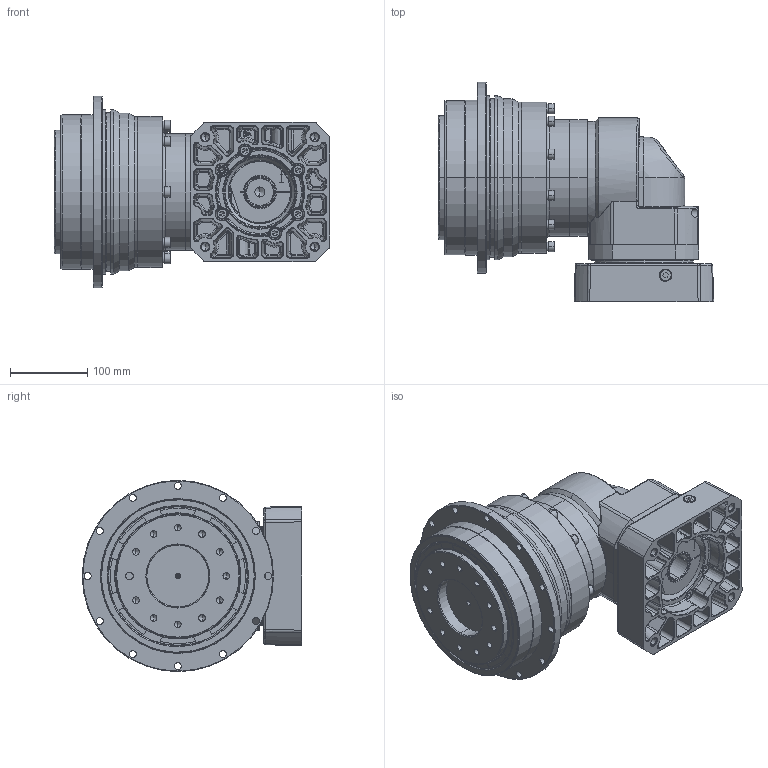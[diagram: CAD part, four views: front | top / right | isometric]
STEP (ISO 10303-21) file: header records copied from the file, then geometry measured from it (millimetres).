
FILE_DESCRIPTION (( 'STEP AP214' ), '1' );
FILE_NAME ('EVT200-L2-P1 35-114.3-200-M12-82.STEP', '2025-02-19T06:11:22', ( '微软用户' ), ( '微软中国' ), 'SwSTEP 2.0', 'SolidWorks 2021', '' );
FILE_SCHEMA (( 'AUTOMOTIVE_DESIGN' ));
Length unit declared in the file: millimetre
Products named in the file (14): 怀堤傷褲极EVT140D; 输入轴PAR142D-35; 20-FADR140F眻褒眊极_stp.stp; 输入端壳体PAR142D_1; 怀堤俴陎殤VRT200D; 输出内齿圈壳体VRT200; 一级内齿圈壳体VRT140; M6-14樓粟菜; 输入轴锁紧环41X79X18(加螺丝); EVT200-L2-P1 35-114.3-200-M12-82; 蚐猾160X180X3; 镂空输入法兰PAB142D-114.3-53-M12; M8-16樓粟菜; 踡隅蹟隊M16x12_1
Assembly tree (42 placements, depth 2):
  EVT200-L2-P1 35-114.3-200-M12-82
    怀堤俴陎殤VRT200D
    蚐猾160X180X3
    输出内齿圈壳体VRT200
    一级内齿圈壳体VRT140
    M8-16樓粟菜  x22
    踡隅蹟隊M16x12_1
    输入轴PAR142D-35
    输入轴锁紧环41X79X18(加螺丝)
    怀堤傷褲极EVT140D
    输入端壳体PAR142D_1
    镂空输入法兰PAB142D-114.3-53-M12
    M6-14樓粟菜  x9
    20-FADR140F眻褒眊极_stp.stp
Bounding box: 355.5 x 283.5 x 247 mm (x, y, z)
Volume: 8048276.9 mm3; surface area: 973094.5 mm2
Topology: 10 solids, 77 shells, 2734 faces, 6541 edges, 3986 vertices
Faces by surface type: cylinder 816, plane 748, bspline 647, cone 442, torus 81
Entity records: 98984 total; most frequent: CARTESIAN_POINT 41221, ORIENTED_EDGE 9063, DIRECTION 7689, EDGE_CURVE 4545, AXIS2_PLACEMENT_3D 3134, VERTEX_POINT 2771, EDGE_LOOP 2212, FACE_OUTER_BOUND 1954
